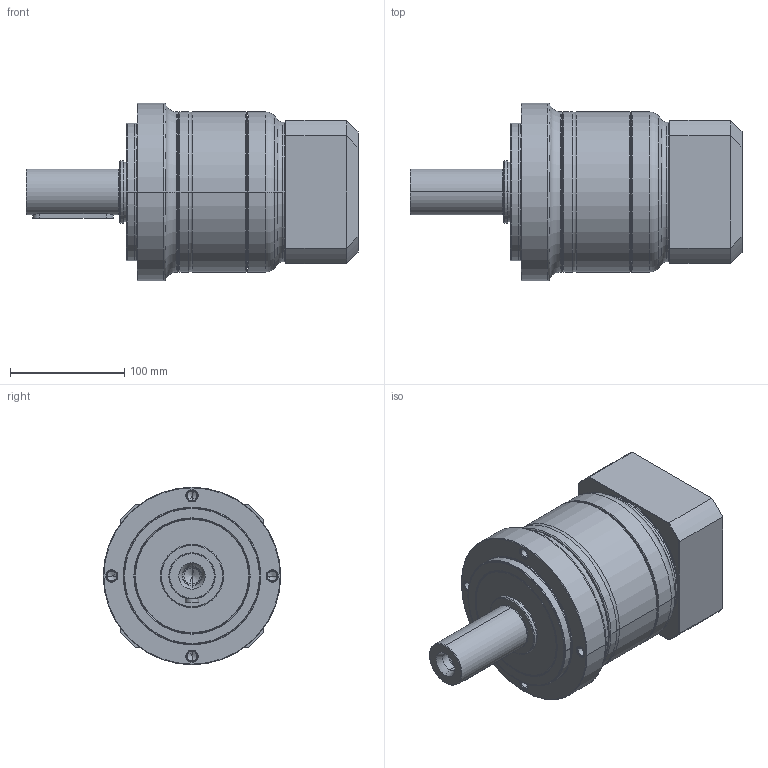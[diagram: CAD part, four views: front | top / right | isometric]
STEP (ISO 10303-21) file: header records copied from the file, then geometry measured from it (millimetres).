
FILE_DESCRIPTION((''),'2;1');
FILE_NAME('PE2-155_1ST_32-P0411700101_ASM','2016-04-26T',('d00435'),(''),'PRO/ENGINEER BY PARAMETRIC TECHNOLOGY CORPORATION, 2008410','PRO/ENGINEER BY PARAMETRIC TECHNOLOGY CORPORATION, 2008410','');
FILE_SCHEMA(('CONFIG_CONTROL_DESIGN'));
Length unit declared in the file: millimetre
Products named in the file (9): P1323510001; P0250500001; P1324500301; P0350501001; P0941503001; P0503700010; P0411700101; P1702600001; PE2-155_1ST_32-P0411700101_ASM
Assembly tree (8 placements, depth 2):
  PE2-155_1ST_32-P0411700101_ASM
    P1323510001
    P0250500001
    P1324500301
    P0350501001
    P0941503001
    P0503700010
    P0411700101
    P1702600001
Bounding box: 290 x 155 x 155 mm (x, y, z)
Volume: 2591588.6 mm3; surface area: 353449.1 mm2
Topology: 8 solids, 22 shells, 524 faces, 1174 edges, 694 vertices
Faces by surface type: cylinder 166, cone 144, torus 102, plane 96, bspline 16
Entity records: 19378 total; most frequent: CARTESIAN_POINT 7383, DIRECTION 2763, ORIENTED_EDGE 2220, AXIS2_PLACEMENT_3D 1195, EDGE_CURVE 1138, VERTEX_POINT 694, CIRCLE 660, EDGE_LOOP 604
